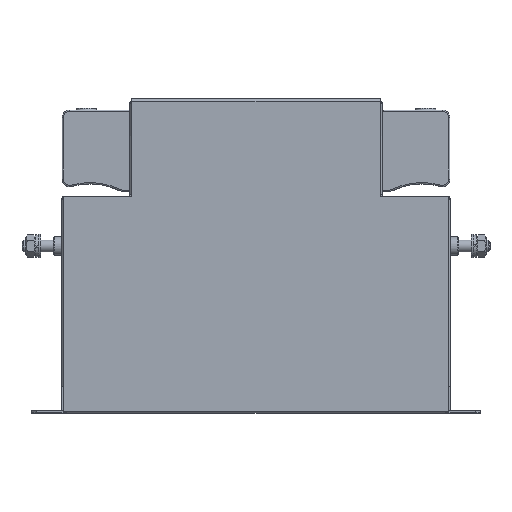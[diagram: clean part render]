
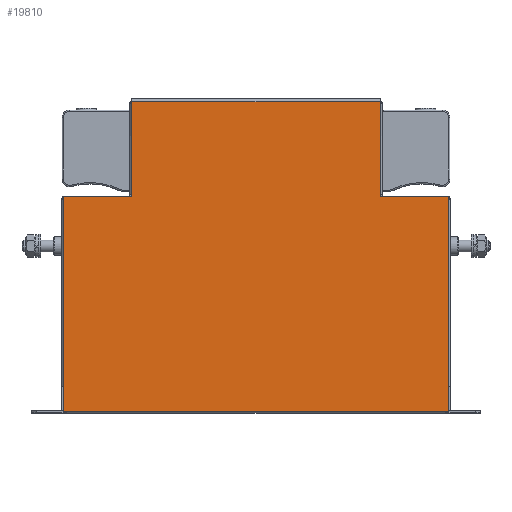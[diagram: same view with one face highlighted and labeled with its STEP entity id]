
A CAD part, top view. The second image highlights one B-rep face of the part: STEP entity #19810.
In plain terms, the highlighted planar face has unit normal (0, 0, 1).
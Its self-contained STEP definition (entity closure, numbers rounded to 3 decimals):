
#2248=FACE_OUTER_BOUND('',#3535,.T.);
#3535=EDGE_LOOP('',(#16071,#16072,#16073,#16074,#16075,#16076,#16077,#16078,
#16079,#16080));
#5349=LINE('',#32788,#7245);
#5350=LINE('',#32790,#7246);
#5351=LINE('',#32792,#7247);
#5352=LINE('',#32794,#7248);
#5353=LINE('',#32796,#7249);
#5354=LINE('',#32798,#7250);
#5355=LINE('',#32800,#7251);
#5356=LINE('',#32802,#7252);
#5357=LINE('',#32804,#7253);
#5358=LINE('',#32805,#7254);
#7245=VECTOR('',#25922,10.);
#7246=VECTOR('',#25923,10.);
#7247=VECTOR('',#25924,10.);
#7248=VECTOR('',#25925,10.);
#7249=VECTOR('',#25926,10.);
#7250=VECTOR('',#25927,10.);
#7251=VECTOR('',#25928,10.);
#7252=VECTOR('',#25929,10.);
#7253=VECTOR('',#25930,10.);
#7254=VECTOR('',#25931,10.);
#8953=VERTEX_POINT('',#32786);
#8954=VERTEX_POINT('',#32787);
#8955=VERTEX_POINT('',#32789);
#8956=VERTEX_POINT('',#32791);
#8957=VERTEX_POINT('',#32793);
#8958=VERTEX_POINT('',#32795);
#8959=VERTEX_POINT('',#32797);
#8960=VERTEX_POINT('',#32799);
#8961=VERTEX_POINT('',#32801);
#8962=VERTEX_POINT('',#32803);
#11386=EDGE_CURVE('',#8953,#8954,#5349,.T.);
#11387=EDGE_CURVE('',#8953,#8955,#5350,.T.);
#11388=EDGE_CURVE('',#8955,#8956,#5351,.T.);
#11389=EDGE_CURVE('',#8956,#8957,#5352,.T.);
#11390=EDGE_CURVE('',#8957,#8958,#5353,.T.);
#11391=EDGE_CURVE('',#8958,#8959,#5354,.T.);
#11392=EDGE_CURVE('',#8960,#8959,#5355,.T.);
#11393=EDGE_CURVE('',#8961,#8960,#5356,.T.);
#11394=EDGE_CURVE('',#8962,#8961,#5357,.T.);
#11395=EDGE_CURVE('',#8954,#8962,#5358,.T.);
#16071=ORIENTED_EDGE('',*,*,#11386,.F.);
#16072=ORIENTED_EDGE('',*,*,#11387,.T.);
#16073=ORIENTED_EDGE('',*,*,#11388,.T.);
#16074=ORIENTED_EDGE('',*,*,#11389,.T.);
#16075=ORIENTED_EDGE('',*,*,#11390,.T.);
#16076=ORIENTED_EDGE('',*,*,#11391,.T.);
#16077=ORIENTED_EDGE('',*,*,#11392,.F.);
#16078=ORIENTED_EDGE('',*,*,#11393,.F.);
#16079=ORIENTED_EDGE('',*,*,#11394,.F.);
#16080=ORIENTED_EDGE('',*,*,#11395,.F.);
#17783=PLANE('',#21382);
#19810=ADVANCED_FACE('',(#2248),#17783,.T.);
#21382=AXIS2_PLACEMENT_3D('',#32785,#25920,#25921);
#25920=DIRECTION('center_axis',(0.,0.,
1.));
#25921=DIRECTION('ref_axis',(1.,0.,0.));
#25922=DIRECTION('',(0.707,-0.707,0.));
#25923=DIRECTION('',(-1.,0.,0.));
#25924=DIRECTION('',(0.,1.,0.));
#25925=DIRECTION('',(-1.,0.,0.));
#25926=DIRECTION('',(0.,-1.,0.));
#25927=DIRECTION('',(-1.,0.,0.));
#25928=DIRECTION('',(0.707,0.707,0.));
#25929=DIRECTION('',(0.,1.,0.));
#25930=DIRECTION('',(-1.,0.,0.));
#25931=DIRECTION('',(0.,-1.,0.));
#32785=CARTESIAN_POINT('Origin',(0.,105.5,44.75));
#32786=CARTESIAN_POINT('',(127.5,145.,44.75));
#32787=CARTESIAN_POINT('',(128.5,144.,44.75));
#32788=CARTESIAN_POINT('',(105.75,166.75,44.75));
#32789=CARTESIAN_POINT('',(83.,145.,44.75));
#32790=CARTESIAN_POINT('',(64.25,145.,44.75));
#32791=CARTESIAN_POINT('',(83.,208.2,44.75));
#32792=CARTESIAN_POINT('',(83.,125.25,44.75));
#32793=CARTESIAN_POINT('',(-83.,208.2,44.75));
#32794=CARTESIAN_POINT('',(41.5,208.2,44.75));
#32795=CARTESIAN_POINT('',(-83.,145.,44.75));
#32796=CARTESIAN_POINT('',(-83.,157.75,44.75));
#32797=CARTESIAN_POINT('',(-127.5,145.,44.75));
#32798=CARTESIAN_POINT('',(-41.5,145.,44.75));
#32799=CARTESIAN_POINT('',(-128.5,144.,44.75));
#32800=CARTESIAN_POINT('',(-105.75,166.75,44.75));
#32801=CARTESIAN_POINT('',(-128.5,1.,44.75));
#32802=CARTESIAN_POINT('',(-128.5,210.,44.75));
#32803=CARTESIAN_POINT('',(128.5,1.,44.75));
#32804=CARTESIAN_POINT('',(-128.5,1.,44.75));
#32805=CARTESIAN_POINT('',(128.5,1.,44.75));
